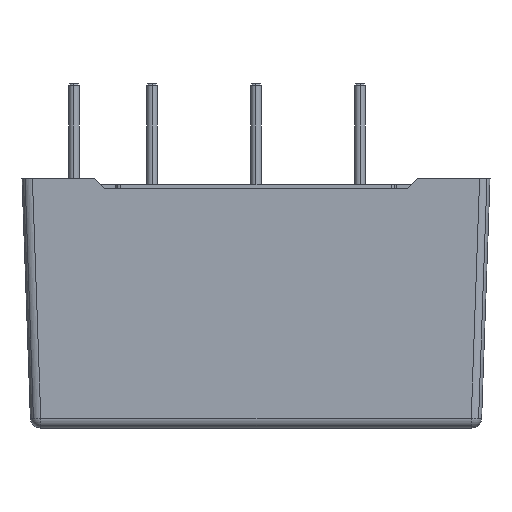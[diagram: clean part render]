
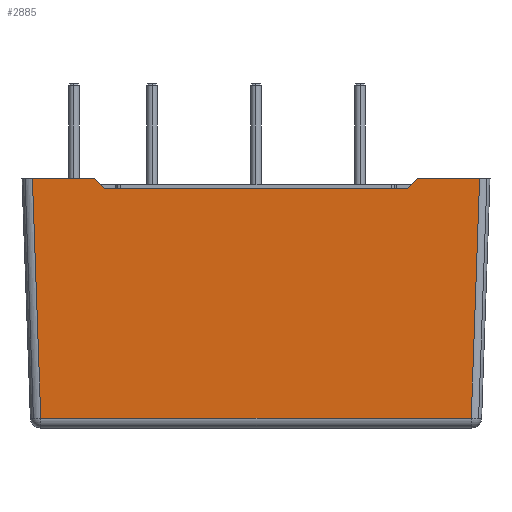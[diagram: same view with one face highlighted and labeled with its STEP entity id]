
A CAD part, left-side view. The second image highlights one B-rep face of the part: STEP entity #2885.
In plain terms, the highlighted planar face has unit normal (-0.999, 0, -0.035).
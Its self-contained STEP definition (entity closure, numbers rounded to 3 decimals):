
#264=CARTESIAN_POINT('',(0.804,43.196,0.965));
#265=VERTEX_POINT('',#264);
#273=CARTESIAN_POINT('',(0.,44.001,24.));
#274=VERTEX_POINT('',#273);
#275=CARTESIAN_POINT('',(0.804,43.196,0.965));
#276=DIRECTION('',(-0.035,0.035,0.999));
#277=VECTOR('',#276,23.063);
#278=LINE('',#275,#277);
#279=EDGE_CURVE('',#265,#274,#278,.T.);
#2426=CARTESIAN_POINT('',(0.,7.,24.));
#2427=VERTEX_POINT('',#2426);
#2434=CARTESIAN_POINT('',(0.,0.999,24.));
#2435=VERTEX_POINT('',#2434);
#2436=CARTESIAN_POINT('',(0.,0.999,24.));
#2437=DIRECTION('',(0.0,1.0,0.0));
#2438=VECTOR('',#2437,6.001);
#2439=LINE('',#2436,#2438);
#2440=EDGE_CURVE('',#2435,#2427,#2439,.T.);
#2574=CARTESIAN_POINT('',(0.,38.,24.));
#2575=VERTEX_POINT('',#2574);
#2576=CARTESIAN_POINT('',(0.,38.,24.));
#2577=DIRECTION('',(0.0,1.0,0.0));
#2578=VECTOR('',#2577,6.001);
#2579=LINE('',#2576,#2578);
#2580=EDGE_CURVE('',#2575,#274,#2579,.T.);
#2804=CARTESIAN_POINT('',(0.035,7.965,23.001));
#2805=VERTEX_POINT('',#2804);
#2806=CARTESIAN_POINT('',(0.035,7.965,23.001));
#2807=DIRECTION('',(-0.025,-0.694,0.719));
#2808=VECTOR('',#2807,1.39);
#2809=LINE('',#2806,#2808);
#2810=EDGE_CURVE('',#2805,#2427,#2809,.T.);
#2830=CARTESIAN_POINT('',(0.838,0.0,0.015));
#2831=DIRECTION('',(-0.999,0.,-0.035));
#2832=DIRECTION('',(-0.035,0.,0.999));
#2833=AXIS2_PLACEMENT_3D('',#2830,#2831,#2832);
#2834=PLANE('',#2833);
#2835=ORIENTED_EDGE('',*,*,#2810,.F.);
#2836=CARTESIAN_POINT('',(0.035,7.965,23.));
#2837=VERTEX_POINT('',#2836);
#2838=CARTESIAN_POINT('',(0.035,7.965,23.001));
#2839=DIRECTION('',(0.035,-0.035,-0.999));
#2840=VECTOR('',#2839,0.001);
#2841=LINE('',#2838,#2840);
#2842=EDGE_CURVE('',#2805,#2837,#2841,.T.);
#2843=ORIENTED_EDGE('',*,*,#2842,.T.);
#2844=CARTESIAN_POINT('',(0.035,37.035,23.));
#2845=VERTEX_POINT('',#2844);
#2846=CARTESIAN_POINT('',(0.035,7.965,23.));
#2847=DIRECTION('',(0.0,1.0,0.0));
#2848=VECTOR('',#2847,29.07);
#2849=LINE('',#2846,#2848);
#2850=EDGE_CURVE('',#2837,#2845,#2849,.T.);
#2851=ORIENTED_EDGE('',*,*,#2850,.T.);
#2852=CARTESIAN_POINT('',(0.035,37.035,23.001));
#2853=VERTEX_POINT('',#2852);
#2854=CARTESIAN_POINT('',(0.035,37.035,23.));
#2855=DIRECTION('',(-0.035,-0.035,0.999));
#2856=VECTOR('',#2855,0.001);
#2857=LINE('',#2854,#2856);
#2858=EDGE_CURVE('',#2845,#2853,#2857,.T.);
#2859=ORIENTED_EDGE('',*,*,#2858,.T.);
#2860=CARTESIAN_POINT('',(0.,38.,24.));
#2861=DIRECTION('',(0.025,-0.694,-0.719));
#2862=VECTOR('',#2861,1.39);
#2863=LINE('',#2860,#2862);
#2864=EDGE_CURVE('',#2575,#2853,#2863,.T.);
#2865=ORIENTED_EDGE('',*,*,#2864,.F.);
#2866=ORIENTED_EDGE('',*,*,#2580,.T.);
#2867=ORIENTED_EDGE('',*,*,#279,.F.);
#2868=CARTESIAN_POINT('',(0.804,1.804,0.965));
#2869=VERTEX_POINT('',#2868);
#2870=CARTESIAN_POINT('',(0.804,1.804,0.965));
#2871=DIRECTION('',(0.0,1.0,0.0));
#2872=VECTOR('',#2871,41.392);
#2873=LINE('',#2870,#2872);
#2874=EDGE_CURVE('',#2869,#265,#2873,.T.);
#2875=ORIENTED_EDGE('',*,*,#2874,.F.);
#2876=CARTESIAN_POINT('',(0.,0.999,24.));
#2877=DIRECTION('',(0.035,0.035,-0.999));
#2878=VECTOR('',#2877,23.063);
#2879=LINE('',#2876,#2878);
#2880=EDGE_CURVE('',#2435,#2869,#2879,.T.);
#2881=ORIENTED_EDGE('',*,*,#2880,.F.);
#2882=ORIENTED_EDGE('',*,*,#2440,.T.);
#2883=EDGE_LOOP('',(#2835,#2843,#2851,#2859,#2865,#2866,#2867,#2875,#2881,#2882));
#2884=FACE_OUTER_BOUND('',#2883,.T.);
#2885=ADVANCED_FACE('',(#2884),#2834,.T.);
